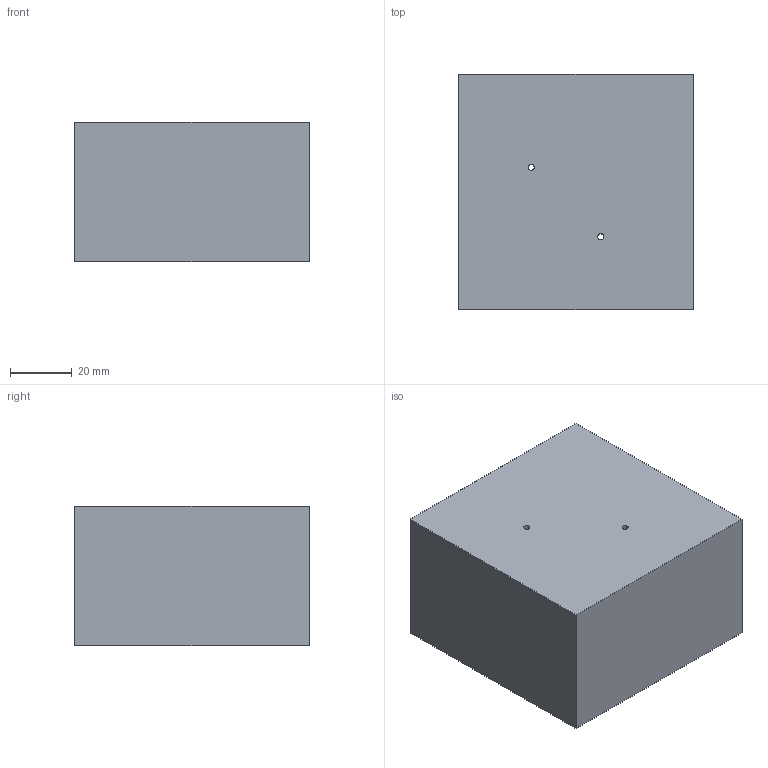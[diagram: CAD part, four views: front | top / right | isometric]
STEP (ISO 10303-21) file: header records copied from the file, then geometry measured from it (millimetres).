
FILE_DESCRIPTION (( 'STEP AP203' ), '1' );
FILE_NAME ('FT30ES16.STEP', '2026-06-26T01:13:36', ( 'USER' ), ( '' ), 'SwSTEP 2.0', 'SolidWorks 2023', '' );
FILE_SCHEMA (( 'CONFIG_CONTROL_DESIGN' ));
Length unit declared in the file: millimetre
Products named in the file (1): FT30ES16
Bounding box: 76 x 76 x 45 mm (x, y, z)
Volume: 189547.6 mm3; surface area: 33724 mm2
Topology: 1 solids, 1 shells, 40 faces, 95 edges, 55 vertices
Faces by surface type: cylinder 22, plane 10, cone 8
Entity records: 1338 total; most frequent: CARTESIAN_POINT 344, DIRECTION 192, ORIENTED_EDGE 190, EDGE_CURVE 95, AXIS2_PLACEMENT_3D 75, VERTEX_POINT 55, EDGE_LOOP 48, VECTOR 42
